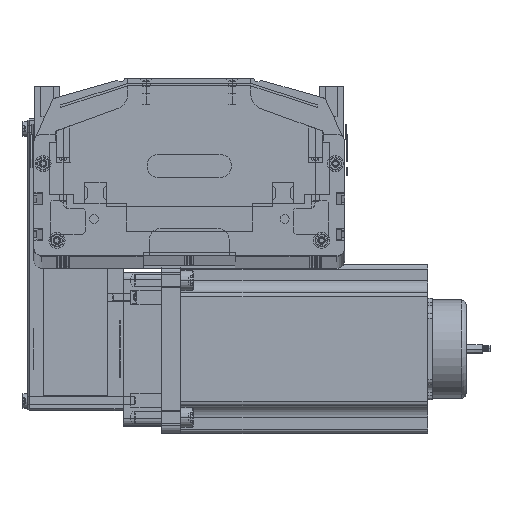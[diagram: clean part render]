
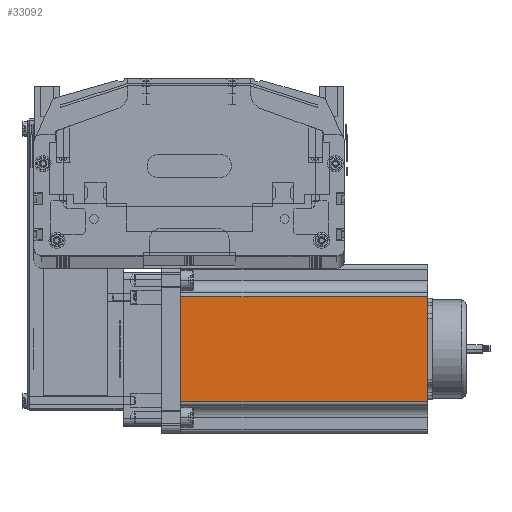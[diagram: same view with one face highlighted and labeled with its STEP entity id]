
A CAD part, top view. The second image highlights one B-rep face of the part: STEP entity #33092.
In plain terms, the highlighted planar face has unit normal (0, 0, 1) as drawn and (0, -1, 0) by its records, which use the part's own axes.
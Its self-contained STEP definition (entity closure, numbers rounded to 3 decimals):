
#32943 = EDGE_CURVE ( 'NONE', #33742, #33307, #92766, .T. ) ;
#33037 = VERTEX_POINT ( 'NONE', #93294 ) ;
#33046 = ORIENTED_EDGE ( 'NONE', *, *, #33295, .T. ) ;
#33052 = EDGE_LOOP ( 'NONE', ( #33046, #33097, #33762, #33383 ) ) ;
#33092 = ADVANCED_FACE ( 'NONE', ( #93449 ), #93438, .F. ) ;
#33097 = ORIENTED_EDGE ( 'NONE', *, *, #33700, .T. ) ;
#33295 = EDGE_CURVE ( 'NONE', #33307, #33037, #93712, .T. ) ;
#33307 = VERTEX_POINT ( 'NONE', #93709 ) ;
#33383 = ORIENTED_EDGE ( 'NONE', *, *, #32943, .T. ) ;
#33384 = VERTEX_POINT ( 'NONE', #93783 ) ;
#33647 = EDGE_CURVE ( 'NONE', #33742, #33384, #94620, .T. ) ;
#33700 = EDGE_CURVE ( 'NONE', #33037, #33384, #94958, .T. ) ;
#33742 = VERTEX_POINT ( 'NONE', #95028 ) ;
#33762 = ORIENTED_EDGE ( 'NONE', *, *, #33647, .F. ) ;
#92765 = CARTESIAN_POINT ( 'NONE',  ( 21.048, 0., 160.5 ) ) ;
#92766 = LINE ( 'NONE', #92765, #92826 ) ;
#92825 = DIRECTION ( 'NONE',  ( 0., 0., -1. ) ) ;
#92826 = VECTOR ( 'NONE', #92825, 1000. ) ;
#93294 = CARTESIAN_POINT ( 'NONE',  ( 88.952, 0., 0. ) ) ;
#93378 = DIRECTION ( 'NONE',  ( 0., 1., 0. ) ) ;
#93414 = DIRECTION ( 'NONE',  ( 0., 0., 1. ) ) ;
#93421 = CARTESIAN_POINT ( 'NONE',  ( 0., 0., 160.5 ) ) ;
#93425 = AXIS2_PLACEMENT_3D ( 'NONE', #93421, #93378, #93414 ) ;
#93438 = PLANE ( 'NONE',  #93425 ) ;
#93449 = FACE_OUTER_BOUND ( 'NONE', #33052, .T. ) ;
#93702 = DIRECTION ( 'NONE',  ( 1., 0., 0. ) ) ;
#93709 = CARTESIAN_POINT ( 'NONE',  ( 21.048, 0., 0. ) ) ;
#93710 = VECTOR ( 'NONE', #93702, 1000. ) ;
#93711 = CARTESIAN_POINT ( 'NONE',  ( 0., 0., 0. ) ) ;
#93712 = LINE ( 'NONE', #93711, #93710 ) ;
#93783 = CARTESIAN_POINT ( 'NONE',  ( 88.952, 0., 160.5 ) ) ;
#94579 = CARTESIAN_POINT ( 'NONE',  ( 0., 0., 160.5 ) ) ;
#94620 = LINE ( 'NONE', #94579, #94723 ) ;
#94721 = DIRECTION ( 'NONE',  ( 1., 0., 0. ) ) ;
#94723 = VECTOR ( 'NONE', #94721, 1000. ) ;
#94955 = DIRECTION ( 'NONE',  ( 0., 0., 1. ) ) ;
#94956 = VECTOR ( 'NONE', #94955, 1000. ) ;
#94957 = CARTESIAN_POINT ( 'NONE',  ( 88.952, 0., 160.5 ) ) ;
#94958 = LINE ( 'NONE', #94957, #94956 ) ;
#95028 = CARTESIAN_POINT ( 'NONE',  ( 21.048, 0., 160.5 ) ) ;
